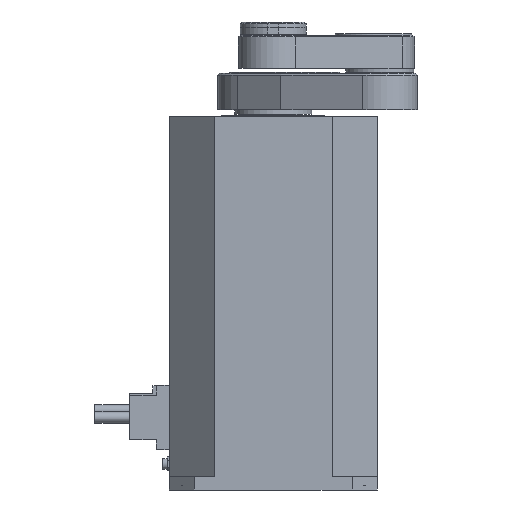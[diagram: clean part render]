
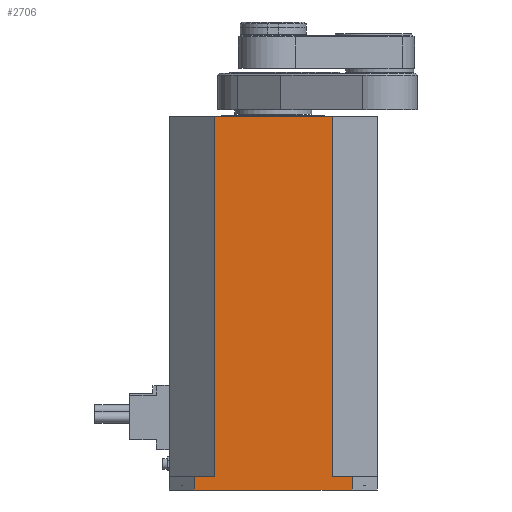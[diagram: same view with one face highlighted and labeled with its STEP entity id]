
A CAD part, left-side view. The second image highlights one B-rep face of the part: STEP entity #2706.
In plain terms, the highlighted planar face has unit normal (-1, 0, 0).
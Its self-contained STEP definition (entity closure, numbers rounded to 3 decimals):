
#1897=CARTESIAN_POINT('',(-120.0,430.0,68.));
#1898=VERTEX_POINT('',#1897);
#1905=CARTESIAN_POINT('',(-120.0,15.0,68.));
#1906=VERTEX_POINT('',#1905);
#1907=CARTESIAN_POINT('',(-120.0,15.0,68.));
#1908=DIRECTION('',(0.0,1.0,0.0));
#1909=VECTOR('',#1908,415.0);
#1910=LINE('',#1907,#1909);
#1911=EDGE_CURVE('',#1906,#1898,#1910,.T.);
#1935=CARTESIAN_POINT('',(-120.,430.0,-68.));
#1936=VERTEX_POINT('',#1935);
#1953=CARTESIAN_POINT('',(-120.,15.0,-68.));
#1954=VERTEX_POINT('',#1953);
#1961=CARTESIAN_POINT('',(-120.,15.0,-68.));
#1962=DIRECTION('',(0.0,1.0,0.0));
#1963=VECTOR('',#1962,415.0);
#1964=LINE('',#1961,#1963);
#1965=EDGE_CURVE('',#1954,#1936,#1964,.T.);
#1982=CARTESIAN_POINT('',(-120.0,430.0,68.));
#1983=DIRECTION('',(0.0,0.0,-1.0));
#1984=VECTOR('',#1983,136.);
#1985=LINE('',#1982,#1984);
#1986=EDGE_CURVE('',#1898,#1936,#1985,.T.);
#2033=CARTESIAN_POINT('',(-120.,15.0,-91.));
#2034=VERTEX_POINT('',#2033);
#2041=CARTESIAN_POINT('',(-120.,15.0,-68.));
#2042=DIRECTION('',(0.0,0.0,-1.0));
#2043=VECTOR('',#2042,23.);
#2044=LINE('',#2041,#2043);
#2045=EDGE_CURVE('',#1954,#2034,#2044,.T.);
#2089=CARTESIAN_POINT('',(-120.0,15.0,91.));
#2090=VERTEX_POINT('',#2089);
#2091=CARTESIAN_POINT('',(-120.0,15.0,91.));
#2092=DIRECTION('',(0.0,0.0,-1.0));
#2093=VECTOR('',#2092,23.);
#2094=LINE('',#2091,#2093);
#2095=EDGE_CURVE('',#2090,#1906,#2094,.T.);
#2672=CARTESIAN_POINT('',(-120.0,0.0,91.));
#2673=DIRECTION('',(-1.0,0.0,0.0));
#2674=DIRECTION('',(0.0,0.0,1.0));
#2675=AXIS2_PLACEMENT_3D('',#2672,#2673,#2674);
#2676=PLANE('',#2675);
#2677=ORIENTED_EDGE('',*,*,#2095,.T.);
#2678=ORIENTED_EDGE('',*,*,#1911,.T.);
#2679=ORIENTED_EDGE('',*,*,#1986,.T.);
#2680=ORIENTED_EDGE('',*,*,#1965,.F.);
#2681=ORIENTED_EDGE('',*,*,#2045,.T.);
#2682=CARTESIAN_POINT('',(-120.,0.0,-91.));
#2683=VERTEX_POINT('',#2682);
#2684=CARTESIAN_POINT('',(-120.,0.0,-91.));
#2685=DIRECTION('',(0.0,1.0,0.0));
#2686=VECTOR('',#2685,15.0);
#2687=LINE('',#2684,#2686);
#2688=EDGE_CURVE('',#2683,#2034,#2687,.T.);
#2689=ORIENTED_EDGE('',*,*,#2688,.F.);
#2690=CARTESIAN_POINT('',(-120.0,0.0,91.));
#2691=VERTEX_POINT('',#2690);
#2692=CARTESIAN_POINT('',(-120.0,0.0,91.));
#2693=DIRECTION('',(0.0,0.0,-1.0));
#2694=VECTOR('',#2693,182.0);
#2695=LINE('',#2692,#2694);
#2696=EDGE_CURVE('',#2691,#2683,#2695,.T.);
#2697=ORIENTED_EDGE('',*,*,#2696,.F.);
#2698=CARTESIAN_POINT('',(-120.0,0.0,91.));
#2699=DIRECTION('',(0.0,1.0,0.0));
#2700=VECTOR('',#2699,15.0);
#2701=LINE('',#2698,#2700);
#2702=EDGE_CURVE('',#2691,#2090,#2701,.T.);
#2703=ORIENTED_EDGE('',*,*,#2702,.T.);
#2704=EDGE_LOOP('',(#2677,#2678,#2679,#2680,#2681,#2689,#2697,#2703));
#2705=FACE_OUTER_BOUND('',#2704,.T.);
#2706=ADVANCED_FACE('',(#2705),#2676,.T.);
